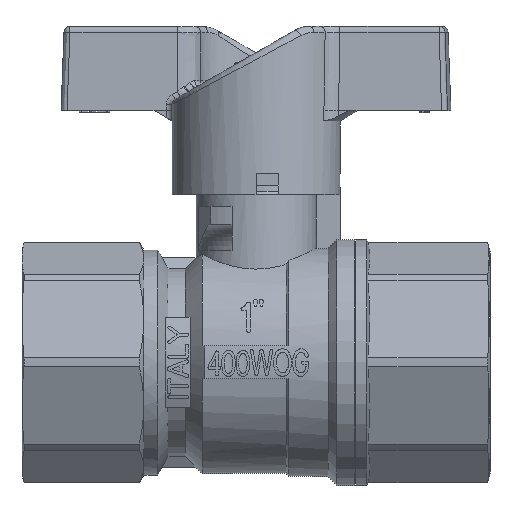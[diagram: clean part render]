
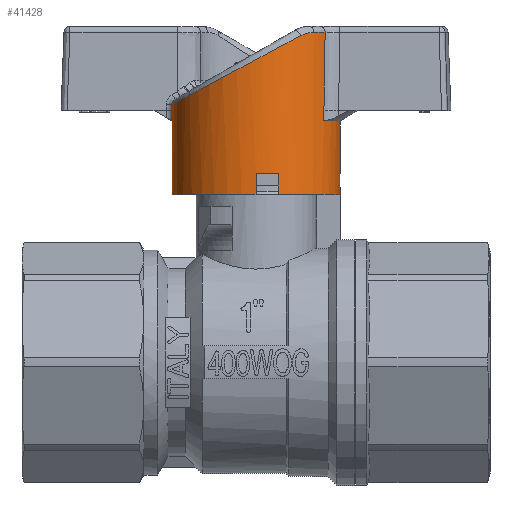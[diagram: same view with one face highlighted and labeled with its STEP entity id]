
A CAD part, top view. The second image highlights one B-rep face of the part: STEP entity #41428.
In plain terms, the highlighted cylindrical face has radius 14 mm (diameter 28 mm), a partial arc.
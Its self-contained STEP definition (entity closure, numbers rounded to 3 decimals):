
#36255=DIRECTION('',(0.,1.,0.));
#36256=VECTOR('',#36255,8.768);
#36257=CARTESIAN_POINT('',(14.,3.5,0.));
#36258=LINE('',#36257,#36256);
#36329=DIRECTION('',(0.,1.,0.));
#36330=VECTOR('',#36329,12.268);
#36331=CARTESIAN_POINT('',(-14.,0.,0.));
#36332=LINE('',#36331,#36330);
#36361=CARTESIAN_POINT('',(0.,3.5,0.));
#36362=DIRECTION('',(0.,-1.,0.));
#36363=DIRECTION('',(1.,0.,0.));
#36364=AXIS2_PLACEMENT_3D('',#36361,#36362,#36363);
#36409=DIRECTION('',(0.,-1.,0.));
#36410=VECTOR('',#36409,3.5);
#36411=CARTESIAN_POINT('',(3.7,3.5,13.502));
#36412=LINE('',#36411,#36410);
#36431=DIRECTION('',(0.,-1.,0.));
#36432=VECTOR('',#36431,3.5);
#36433=CARTESIAN_POINT('',(13.991,3.5,0.5));
#36434=LINE('',#36433,#36432);
#36439=CARTESIAN_POINT('',(0.,0.,0.));
#36440=DIRECTION('',(0.,-1.,0.));
#36441=DIRECTION('',(0.,0.,1.));
#36442=AXIS2_PLACEMENT_3D('',#36439,#36440,#36441);
#36444=CARTESIAN_POINT('',(0.,12.268,0.));
#36445=DIRECTION('',(0.,-1.,0.));
#36446=DIRECTION('',(-0.998,0.,0.067));
#36447=AXIS2_PLACEMENT_3D('',#36444,#36445,#36446);
#36449=DIRECTION('',(0.,-1.,0.));
#36450=VECTOR('',#36449,1.745);
#36451=CARTESIAN_POINT('',(-13.969,14.013,
0.933));
#36452=LINE('',#36451,#36450);
#36453=CARTESIAN_POINT('',(-13.97,14.985,
0.91));
#36454=CARTESIAN_POINT('',(-13.97,14.824,
0.914));
#36455=CARTESIAN_POINT('',(-13.97,14.502,
0.921));
#36456=CARTESIAN_POINT('',(-13.969,14.177,
0.929));
#36457=CARTESIAN_POINT('',(-13.969,14.013,
0.933));
#36459=CARTESIAN_POINT('',(-13.97,14.985,
0.91));
#36460=CARTESIAN_POINT('',(-13.951,14.995,
1.209));
#36461=CARTESIAN_POINT('',(-13.893,15.026,
1.806));
#36462=CARTESIAN_POINT('',(-13.749,15.104,
2.692));
#36463=CARTESIAN_POINT('',(-13.548,15.211,
3.565));
#36464=CARTESIAN_POINT('',(-13.293,15.348,
4.424));
#36465=CARTESIAN_POINT('',(-12.984,15.514,
5.261));
#36466=CARTESIAN_POINT('',(-12.625,15.706,
6.071));
#36467=CARTESIAN_POINT('',(-12.211,15.928,
6.869));
#36468=CARTESIAN_POINT('',(-11.714,16.195,
7.69));
#36469=CARTESIAN_POINT('',(-11.302,16.415,
8.27));
#36470=CARTESIAN_POINT('',(-11.076,16.537,
8.563));
#36472=CARTESIAN_POINT('',(-11.076,16.537,
8.563));
#36473=CARTESIAN_POINT('',(-10.847,16.659,
8.859));
#36474=CARTESIAN_POINT('',(-10.336,16.933,
9.471));
#36475=CARTESIAN_POINT('',(-9.391,17.44,
10.415));
#36476=CARTESIAN_POINT('',(-8.229,18.063,
11.363));
#36477=CARTESIAN_POINT('',(-6.819,18.819,
12.269));
#36478=CARTESIAN_POINT('',(-5.15,19.714,
13.066));
#36479=CARTESIAN_POINT('',(-3.268,20.723,
13.662));
#36480=CARTESIAN_POINT('',(-1.303,21.776,
13.985));
#36481=CARTESIAN_POINT('',(0.597,22.795,
14.027));
#36482=CARTESIAN_POINT('',(2.345,23.731,13.836));
#36483=CARTESIAN_POINT('',(3.907,24.569,13.473));
#36484=CARTESIAN_POINT('',(5.275,25.302,12.992));
#36485=CARTESIAN_POINT('',(6.455,25.935,12.443));
#36486=CARTESIAN_POINT('',(7.131,26.298,12.053));
#36487=CARTESIAN_POINT('',(7.442,26.464,11.858));
#36489=CARTESIAN_POINT('',(7.442,26.464,11.858));
#36490=CARTESIAN_POINT('',(7.584,26.541,11.769));
#36491=CARTESIAN_POINT('',(7.889,26.683,11.571));
#36492=CARTESIAN_POINT('',(8.403,26.855,11.205));
#36493=CARTESIAN_POINT('',(8.973,26.971,10.756));
#36494=CARTESIAN_POINT('',(9.384,27.,10.393));
#36495=CARTESIAN_POINT('',(9.596,27.,10.194));
#36497=CARTESIAN_POINT('',(0.,27.,0.));
#36498=DIRECTION('',(0.,1.,0.));
#36499=DIRECTION('',(0.685,0.,0.728));
#36500=AXIS2_PLACEMENT_3D('',#36497,#36498,#36499);
#36502=CARTESIAN_POINT('',(11.52,27.,7.956));
#36503=CARTESIAN_POINT('',(11.505,26.008,7.977));
#36504=CARTESIAN_POINT('',(11.475,23.987,8.021));
#36505=CARTESIAN_POINT('',(11.428,20.884,8.088));
#36506=CARTESIAN_POINT('',(11.377,17.598,8.159));
#36507=CARTESIAN_POINT('',(11.341,15.25,8.209));
#36508=CARTESIAN_POINT('',(11.322,14.039,8.235));
#36510=DIRECTION('',(0.,-1.,0.));
#36511=VECTOR('',#36510,1.771);
#36512=CARTESIAN_POINT('',(11.322,14.039,8.235));
#36513=LINE('',#36512,#36511);
#36514=CARTESIAN_POINT('',(0.,0.,0.));
#36515=DIRECTION('',(0.,-1.,0.));
#36516=DIRECTION('',(0.999,0.,0.036));
#36517=AXIS2_PLACEMENT_3D('',#36514,#36515,#36516);
#36519=CARTESIAN_POINT('',(0.,3.5,0.));
#36520=DIRECTION('',(0.,-1.,0.));
#36521=DIRECTION('',(0.264,0.,0.964));
#36522=AXIS2_PLACEMENT_3D('',#36519,#36520,#36521);
#36537=DIRECTION('',(0.,-1.,0.));
#36538=VECTOR('',#36537,3.5);
#36539=CARTESIAN_POINT('',(0.,3.5,14.));
#36540=LINE('',#36539,#36538);
#36573=CARTESIAN_POINT('',(-13.969,12.268,
0.933));
#37690=CARTESIAN_POINT('',(0.,12.268,0.));
#37691=DIRECTION('',(0.,-1.,0.));
#37692=DIRECTION('',(1.,0.,0.));
#37693=AXIS2_PLACEMENT_3D('',#37690,#37691,#37692);
#37713=CARTESIAN_POINT('',(11.322,14.039,8.235));
#37724=CARTESIAN_POINT('',(11.52,27.,7.956));
#38058=CARTESIAN_POINT('',(-13.97,14.985,
0.91));
#40185=CARTESIAN_POINT('',(13.991,0.,0.5));
#40187=VERTEX_POINT('',#40185);
#40194=CARTESIAN_POINT('',(14.,3.5,0.));
#40196=VERTEX_POINT('',#40194);
#40201=CARTESIAN_POINT('',(-14.,0.,0.));
#40202=VERTEX_POINT('',#40201);
#40203=CARTESIAN_POINT('',(13.991,3.5,0.5));
#40205=VERTEX_POINT('',#40203);
#40216=CARTESIAN_POINT('',(3.7,0.,13.502));
#40218=VERTEX_POINT('',#40216);
#40219=CARTESIAN_POINT('',(0.,0.,14.));
#40221=VERTEX_POINT('',#40219);
#40223=CARTESIAN_POINT('',(3.7,3.5,13.502));
#40224=VERTEX_POINT('',#40223);
#40225=CARTESIAN_POINT('',(0.,3.5,14.));
#40226=VERTEX_POINT('',#40225);
#40388=VERTEX_POINT('',#37713);
#40483=VERTEX_POINT('',#37724);
#40484=CARTESIAN_POINT('',(9.596,27.,10.194));
#40485=VERTEX_POINT('',#40484);
#40490=VERTEX_POINT('',#36472);
#40491=VERTEX_POINT('',#36487);
#40504=VERTEX_POINT('',#38058);
#40513=VERTEX_POINT('',#36573);
#40517=CARTESIAN_POINT('',(-13.969,14.013,
0.933));
#40518=VERTEX_POINT('',#40517);
#40519=CARTESIAN_POINT('',(-14.,12.268,0.));
#40520=VERTEX_POINT('',#40519);
#40529=CARTESIAN_POINT('',(14.,12.268,0.));
#40530=VERTEX_POINT('',#40529);
#40576=CARTESIAN_POINT('',(11.322,12.268,8.235));
#40577=VERTEX_POINT('',#40576);
#41390=CARTESIAN_POINT('',(0.,89.549,0.));
#41391=DIRECTION('',(0.,-1.,0.));
#41392=DIRECTION('',(-1.,0.,0.));
#41393=AXIS2_PLACEMENT_3D('',#41390,#41391,#41392);
#41394=CYLINDRICAL_SURFACE('',#41393,14.);
#41395=ORIENTED_EDGE('',*,*,#41332,.F.);
#41397=ORIENTED_EDGE('',*,*,#41396,.T.);
#41399=ORIENTED_EDGE('',*,*,#41398,.T.);
#41400=ORIENTED_EDGE('',*,*,#41317,.T.);
#41401=ORIENTED_EDGE('',*,*,#41246,.T.);
#41403=ORIENTED_EDGE('',*,*,#41402,.F.);
#41405=ORIENTED_EDGE('',*,*,#41404,.F.);
#41407=ORIENTED_EDGE('',*,*,#41406,.F.);
#41409=ORIENTED_EDGE('',*,*,#41408,.T.);
#41411=ORIENTED_EDGE('',*,*,#41410,.T.);
#41413=ORIENTED_EDGE('',*,*,#41412,.T.);
#41415=ORIENTED_EDGE('',*,*,#41414,.T.);
#41417=ORIENTED_EDGE('',*,*,#41416,.T.);
#41419=ORIENTED_EDGE('',*,*,#41418,.T.);
#41421=ORIENTED_EDGE('',*,*,#41420,.F.);
#41422=ORIENTED_EDGE('',*,*,#41228,.F.);
#41423=ORIENTED_EDGE('',*,*,#41269,.T.);
#41424=ORIENTED_EDGE('',*,*,#41383,.T.);
#41425=ORIENTED_EDGE('',*,*,#41295,.T.);
#41426=EDGE_LOOP('',(#41395,#41397,#41399,#41400,#41401,#41403,#41405,#41407,
#41409,#41411,#41413,#41415,#41417,#41419,#41421,#41422,#41423,#41424,#41425));
#41427=FACE_OUTER_BOUND('',#41426,.F.);
#41428=ADVANCED_FACE('',(#41427),#41394,.T.);
#36365=CIRCLE('',#36364,14.);
#36443=CIRCLE('',#36442,14.);
#36448=CIRCLE('',#36447,14.);
#36458=B_SPLINE_CURVE_WITH_KNOTS('',3,(#36453,#36454,#36455,#36456,#36457),
.UNSPECIFIED.,.F.,.F.,(4,1,4),(0.,0.5,1.),.UNSPECIFIED.);
#36471=B_SPLINE_CURVE_WITH_KNOTS('',3,(#36459,#36460,#36461,#36462,#36463,
#36464,#36465,#36466,#36467,#36468,#36469,#36470),.UNSPECIFIED.,.F.,.F.,(4,1,1,
1,1,1,1,1,1,4),(0.,0.111,0.222,0.333,
0.444,0.556,0.667,0.778,
0.889,1.),.UNSPECIFIED.);
#36488=B_SPLINE_CURVE_WITH_KNOTS('',3,(#36472,#36473,#36474,#36475,#36476,
#36477,#36478,#36479,#36480,#36481,#36482,#36483,#36484,#36485,#36486,#36487),
.UNSPECIFIED.,.F.,.F.,(4,1,1,1,1,1,1,1,1,1,1,1,1,4),(0.,0.077,
0.154,0.231,0.308,0.385,
0.462,0.538,0.615,0.692,
0.769,0.846,0.923,1.),.UNSPECIFIED.);
#36496=B_SPLINE_CURVE_WITH_KNOTS('',3,(#36489,#36490,#36491,#36492,#36493,
#36494,#36495),.UNSPECIFIED.,.F.,.F.,(4,1,1,1,4),(0.,0.25,0.5,0.75,
1.),.UNSPECIFIED.);
#36501=CIRCLE('',#36500,14.);
#36509=B_SPLINE_CURVE_WITH_KNOTS('',3,(#36502,#36503,#36504,#36505,#36506,
#36507,#36508),.UNSPECIFIED.,.F.,.F.,(4,1,1,1,4),(0.,0.25,0.5,0.75,
1.),.UNSPECIFIED.);
#36518=CIRCLE('',#36517,14.);
#36523=CIRCLE('',#36522,14.);
#37694=CIRCLE('',#37693,14.);
#41228=EDGE_CURVE('',#40196,#40530,#36258,.T.);
#41246=EDGE_CURVE('',#40202,#40520,#36332,.T.);
#41269=EDGE_CURVE('',#40196,#40205,#36365,.T.);
#41295=EDGE_CURVE('',#40187,#40218,#36518,.T.);
#41317=EDGE_CURVE('',#40221,#40202,#36443,.T.);
#41332=EDGE_CURVE('',#40224,#40218,#36412,.T.);
#41383=EDGE_CURVE('',#40205,#40187,#36434,.T.);
#41396=EDGE_CURVE('',#40224,#40226,#36523,.T.);
#41398=EDGE_CURVE('',#40226,#40221,#36540,.T.);
#41402=EDGE_CURVE('',#40513,#40520,#36448,.T.);
#41404=EDGE_CURVE('',#40518,#40513,#36452,.T.);
#41406=EDGE_CURVE('',#40504,#40518,#36458,.T.);
#41408=EDGE_CURVE('',#40504,#40490,#36471,.T.);
#41410=EDGE_CURVE('',#40490,#40491,#36488,.T.);
#41412=EDGE_CURVE('',#40491,#40485,#36496,.T.);
#41414=EDGE_CURVE('',#40485,#40483,#36501,.T.);
#41416=EDGE_CURVE('',#40483,#40388,#36509,.T.);
#41418=EDGE_CURVE('',#40388,#40577,#36513,.T.);
#41420=EDGE_CURVE('',#40530,#40577,#37694,.T.);
